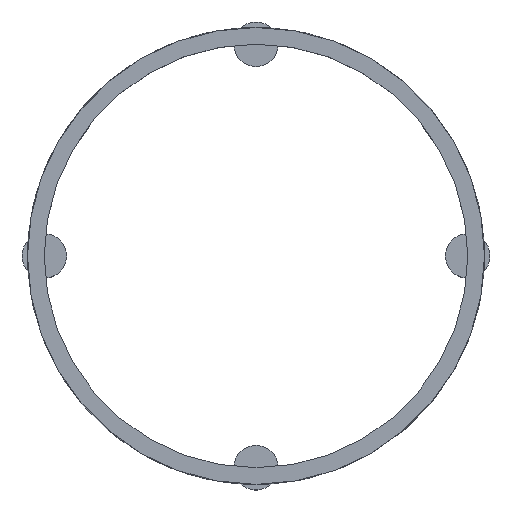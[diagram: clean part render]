
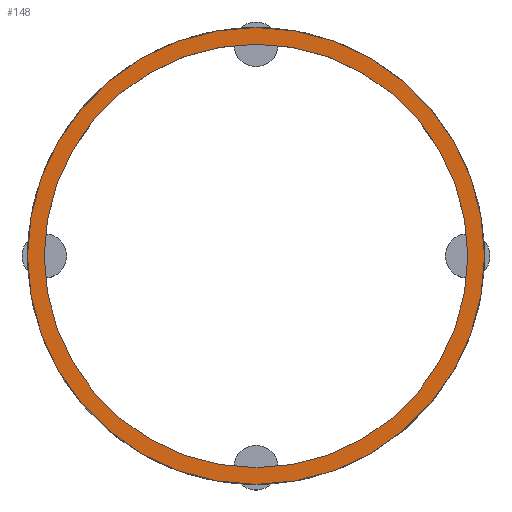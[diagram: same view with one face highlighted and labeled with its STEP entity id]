
A CAD part, top view. The second image highlights one B-rep face of the part: STEP entity #148.
In plain terms, the highlighted planar face has unit normal (0, 0, 1).
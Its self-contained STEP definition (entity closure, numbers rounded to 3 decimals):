
#103=PLANE('',#738);
#127=FACE_BOUND('',#245,.T.);
#128=FACE_BOUND('',#246,.T.);
#148=ADVANCED_FACE('',(#127,#128),#103,.T.);
#245=EDGE_LOOP('',(#375));
#246=EDGE_LOOP('',(#376));
#375=ORIENTED_EDGE('',*,*,#534,.F.);
#376=ORIENTED_EDGE('',*,*,#587,.T.);
#482=VERTEX_POINT('',#1040);
#527=VERTEX_POINT('',#1150);
#534=EDGE_CURVE('',#482,#482,#616,.T.);
#587=EDGE_CURVE('',#527,#527,#655,.T.);
#616=CIRCLE('',#686,19.);
#655=CIRCLE('',#737,20.5);
#686=AXIS2_PLACEMENT_3D('',#1039,#803,#804);
#737=AXIS2_PLACEMENT_3D('',#1149,#919,#920);
#738=AXIS2_PLACEMENT_3D('',#1151,#921,#922);
#803=DIRECTION('',(0.,0.,1.));
#804=DIRECTION('',(1.,0.,0.));
#919=DIRECTION('',(0.,0.,1.));
#920=DIRECTION('',(1.,0.,0.));
#921=DIRECTION('',(0.,0.,1.));
#922=DIRECTION('',(1.,0.,0.));
#1039=CARTESIAN_POINT('',(0.,0.,6.));
#1040=CARTESIAN_POINT('',(19.,0.,6.));
#1149=CARTESIAN_POINT('',(0.,0.,6.));
#1150=CARTESIAN_POINT('',(20.5,0.,6.));
#1151=CARTESIAN_POINT('',(0.,0.,6.));
